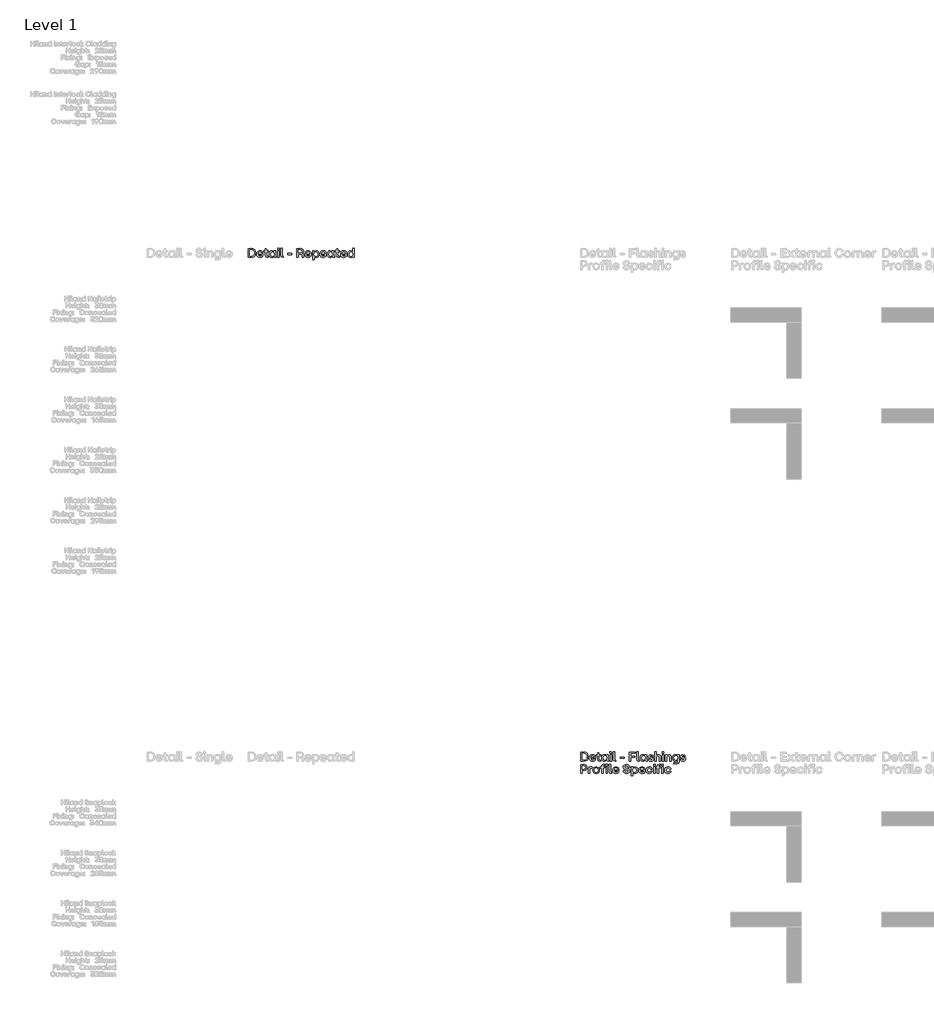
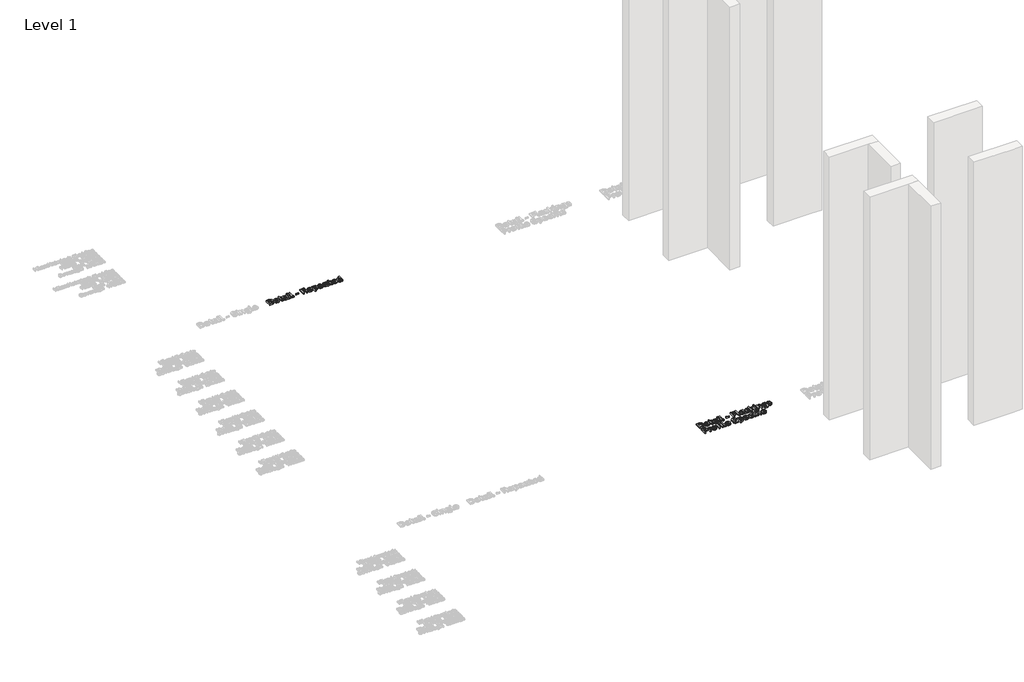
# One storey, part 33 of 64: 2 proxies.
"""IFC4 building model written with IfcOpenShell, lengths in millimetres."""

from ifc_helpers import new_model, si_unit, origin, origin_with_axes, place, context, project, spatial, polyline, outline, extrude, element, save

model = new_model("IFC4")

# Units and contexts
model_context = context("Model", 3, world=origin())
ifc_project = project(units=[si_unit("LENGTHUNIT", "METRE", prefix="MILLI")], contexts=[model_context])

# Site, building, storey
site = spatial("IfcSite", under=ifc_project)
building = spatial("IfcBuilding", under=site)
storey = spatial("IfcBuildingStorey", under=building, Name="Level 1", Elevation=0.0)

# Proxies
placement = place(None, origin())
element("IfcBuildingElementProxy", 1, Name="90mm", ObjectType="90mm", at=placement, inside=storey, context=model_context, shape_type="SweptSolid", body=[
    extrude(outline(polyline([(7610.2926176, -6500.0), (7608.9872124, -6498.7448027), (7608.9872124, -6411.3077612), (7642.5511873, -6410.002356), (7660.5475781, -6413.0054155), (7674.1193986, -6422.0145938), (7682.63905, -6436.3583606), (7685.4789338, -6455.3651852), (7682.648464, -6474.2025582), (7674.1570545, -6488.2890095), (7660.594648, -6497.0722524), (7642.5511873, -6500.0), (7610.2926176, -6500.0)]), holes=[polyline([(7623.7985402, -6487.3727155), (7641.6725492, -6487.3727155), (7653.8950326, -6485.311054), (7662.9481429, -6479.1260695), (7668.5494607, -6469.0625254), (7670.4165666, -6455.3651852), (7668.5431847, -6441.5109454), (7662.923039, -6431.1775339), (7653.8636527, -6424.7477859), (7641.6725492, -6422.6045366), (7623.7985402, -6422.6045366), (7623.7985402, -6487.3727155)])]), origin_with_axes(), (0.0, 0.0, 1.0), 20.0),
    extrude(outline(polyline([(7727.628458, -6500.7531184), (7714.0409476, -6498.4843493), (7703.5035666, -6491.6780421), (7696.7443293, -6481.0622112), (7694.4912502, -6467.3648711), (7696.7349153, -6453.5012173), (7703.4659107, -6442.7881086), (7713.9938777, -6435.9347315), (7727.628458, -6433.6502725), (7740.1584647, -6435.9033516), (7749.7324819, -6442.6625889), (7755.8044987, -6453.3129377), (7757.8285043, -6467.2393514), (7757.8285043, -6470.6785919), (7756.573307, -6472.009101), (7709.1268503, -6472.009101), (7714.6497183, -6484.6865934), (7727.628458, -6489.2053035), (7738.0465953, -6486.9082925), (7743.4439436, -6480.4691305), (7744.8246606, -6479.4147648), (7756.1967478, -6479.4147648), (7754.1633282, -6488.7314665), (7747.8120301, -6495.1925945), (7738.8248176, -6499.3629874), (7727.628458, -6500.7531184)]), holes=[polyline([(7709.2523701, -6461.5909637), (7743.8205028, -6461.5909637), (7739.0633051, -6449.6289337), (7727.628458, -6445.2733992), (7714.8631018, -6449.4155502), (7709.2523701, -6461.5909637)])]), origin_with_axes(), (0.0, 0.0, 1.0), 20.0),
    extrude(outline(polyline([(7796.6140998, -6500.0), (7782.731618, -6495.2302504), (7777.9618684, -6481.3477686), (7777.9618684, -6445.7754781), (7766.7906127, -6445.7754781), (7765.4852076, -6435.7339), (7766.7906127, -6434.4787027), (7777.9618684, -6434.4787027), (7777.9618684, -6416.45407), (7779.2170657, -6415.1486648), (7790.9657121, -6415.1486648), (7792.2209094, -6416.45407), (7792.2209094, -6434.4787027), (7808.0363949, -6434.4787027), (7809.3418001, -6435.7339), (7809.3418001, -6444.444969), (7792.2209094, -6445.7754781), (7792.2209094, -6488.7032246), (7808.0363949, -6488.7032246), (7809.3418001, -6489.9584219), (7809.3418001, -6498.7448027), (7808.0363949, -6500.0), (7796.6140998, -6500.0)])), origin_with_axes(), (0.0, 0.0, 1.0), 20.0),
    extrude(outline(polyline([(7847.2738615, -6500.7531184), (7835.3243835, -6498.4843493), (7826.0861316, -6491.6780421), (7820.1741525, -6481.0622112), (7818.2034928, -6467.3648711), (7820.1741525, -6453.5325972), (7826.0861316, -6442.8132125), (7835.3243835, -6435.9410075), (7847.2738615, -6433.6502725), (7859.1856835, -6436.5372262), (7868.160344, -6444.444969), (7868.7377347, -6435.7339), (7869.992932, -6434.4787027), (7881.6662665, -6434.4787027), (7882.9716717, -6435.7339), (7882.9716717, -6488.7032246), (7890.0760882, -6488.7032246), (7891.3312855, -6489.9584219), (7891.3312855, -6498.7448027), (7890.0760882, -6500.0), (7880.536589, -6500.0), (7872.1581473, -6497.6465051), (7869.3653333, -6490.5860205), (7859.7254183, -6497.8661646), (7847.2738615, -6500.7531184)]), holes=[polyline([(7832.7135732, -6467.3648711), (7837.6716024, -6483.3686362), (7843.5365116, -6487.7461367), (7851.2151809, -6489.2053035), (7858.7714684, -6487.7524127), (7864.470064, -6483.3937402), (7869.2398136, -6467.3648711), (7864.4324081, -6451.1728263), (7858.7243985, -6446.748256), (7851.2151809, -6445.2733992), (7843.5365116, -6446.748256), (7837.6716024, -6451.1728263), (7832.7135732, -6467.3648711)])]), origin_with_axes(), (0.0, 0.0, 1.0), 20.0),
    extrude(outline(polyline([(7903.6824266, -6500.0), (7902.3770214, -6498.7448027), (7902.3770214, -6435.7339), (7903.6824266, -6434.4787027), (7915.3557612, -6434.4787027), (7916.6109584, -6435.7339), (7916.6109584, -6498.7448027), (7915.3557612, -6500.0), (7903.6824266, -6500.0)])), origin_with_axes(), (0.0, 0.0, 1.0), 20.0),
    extrude(outline(polyline([(7901.3728636, -6421.8514182), (7901.3728636, -6407.9940404), (7902.6280609, -6406.6635313), (7916.4854387, -6406.6635313), (7917.8159478, -6421.8514182), (7916.4854387, -6423.1066155), (7902.6280609, -6423.1066155), (7901.3728636, -6421.8514182)])), origin_with_axes(), (0.0, 0.0, 1.0), 20.0),
    extrude(outline(polyline([(7951.5305464, -6500.0), (7937.6731686, -6495.2302504), (7932.903419, -6481.3477686), (7932.903419, -6408.7471587), (7945.8821587, -6407.4166496), (7947.137356, -6408.7471587), (7947.137356, -6488.7032246), (7959.1370418, -6488.7032246), (7960.3922391, -6489.9584219), (7960.3922391, -6498.7448027), (7959.1370418, -6500.0), (7951.5305464, -6500.0)])), origin_with_axes(), (0.0, 0.0, 1.0), 20.0),
    extrude(outline(polyline([(8005.1776775, -6472.887739), (8003.9224803, -6471.5572299), (8003.9224803, -6461.5909637), (8005.1776775, -6460.2604546), (8043.7875455, -6460.2604546), (8045.0427427, -6461.5909637), (8045.0427427, -6471.5572299), (8043.7875455, -6472.887739), (8005.1776775, -6472.887739)])), origin_with_axes(), (0.0, 0.0, 1.0), 20.0),
    extrude(outline(polyline([(8095.5016728, -6500.0), (8094.1962677, -6498.7448027), (8094.1962677, -6411.3077612), (8151.0567038, -6410.002356), (8152.3119011, -6411.3077612), (8152.3119011, -6421.3493393), (8151.0567038, -6422.6045366), (8109.0075954, -6422.6045366), (8109.0075954, -6449.7167975), (8148.4709975, -6449.7167975), (8149.7261947, -6451.0473066), (8149.7261947, -6461.0135729), (8148.4709975, -6462.344082), (8109.0075954, -6462.344082), (8109.0075954, -6498.7448027), (8107.6770863, -6500.0), (8095.5016728, -6500.0)])), origin_with_axes(), (0.0, 0.0, 1.0), 20.0),
    extrude(outline(polyline([(8184.495159, -6500.0), (8170.6377812, -6495.2302504), (8165.8680316, -6481.3477686), (8165.8680316, -6408.7471587), (8178.8467713, -6407.4166496), (8180.1019686, -6408.7471587), (8180.1019686, -6488.7032246), (8192.1016544, -6488.7032246), (8193.3568517, -6489.9584219), (8193.3568517, -6498.7448027), (8192.1016544, -6500.0), (8184.495159, -6500.0)])), origin_with_axes(), (0.0, 0.0, 1.0), 20.0),
    extrude(outline(polyline([(8229.6571566, -6500.7531184), (8217.7076787, -6498.4843493), (8208.4694268, -6491.6780421), (8202.5574477, -6481.0622112), (8200.586788, -6467.3648711), (8202.5574477, -6453.5325972), (8208.4694268, -6442.8132125), (8217.7076787, -6435.9410075), (8229.6571566, -6433.6502725), (8241.5689787, -6436.5372262), (8250.5436392, -6444.444969), (8251.1210299, -6435.7339), (8252.3762272, -6434.4787027), (8264.0495617, -6434.4787027), (8265.3549669, -6435.7339), (8265.3549669, -6488.7032246), (8272.4593834, -6488.7032246), (8273.7145807, -6489.9584219), (8273.7145807, -6498.7448027), (8272.4593834, -6500.0), (8262.9198842, -6500.0), (8254.5414425, -6497.6465051), (8251.7486285, -6490.5860205), (8242.1087135, -6497.8661646), (8229.6571566, -6500.7531184)]), holes=[polyline([(8215.0968684, -6467.3648711), (8220.0548976, -6483.3686362), (8225.9198068, -6487.7461367), (8233.5984761, -6489.2053035), (8241.1547636, -6487.7524127), (8246.8533592, -6483.3937402), (8251.6231088, -6467.3648711), (8246.8157033, -6451.1728263), (8241.1076937, -6446.748256), (8233.5984761, -6445.2733992), (8225.9198068, -6446.748256), (8220.0548976, -6451.1728263), (8215.0968684, -6467.3648711)])]), origin_with_axes(), (0.0, 0.0, 1.0), 20.0),
    extrude(outline(polyline([(8309.0358318, -6500.7531184), (8298.0936496, -6499.4257473), (8289.7183458, -6495.4436339), (8284.1609599, -6488.982506), (8281.6725314, -6480.2180911), (8282.8022089, -6478.7871662), (8294.1742961, -6478.7871662), (8295.4294934, -6479.9670516), (8299.7222681, -6487.4480273), (8309.0358318, -6489.7073824), (8317.0690943, -6487.5735471), (8320.0815677, -6481.8498475), (8317.9226284, -6476.7035387), (8310.6173803, -6474.0174166), (8301.4544403, -6472.3856601), (8287.5468546, -6466.009258), (8283.0532484, -6453.2313499), (8284.7006948, -6445.2137773), (8289.643034, -6438.9848609), (8297.3781872, -6434.9839196), (8307.4040753, -6433.6502725), (8324.8513173, -6438.6083017), (8330.0164541, -6444.6050066), (8332.4578128, -6452.6790631), (8319.956048, -6454.1099879), (8318.575331, -6452.9301025), (8315.0105708, -6446.6164603), (8307.4040753, -6444.6960084), (8299.747372, -6446.6792201), (8297.1114577, -6452.4280236), (8298.9942536, -6457.4111568), (8305.8476307, -6460.1349348), (8315.6381694, -6461.9675228), (8330.060386, -6468.2435092), (8334.1397771, -6481.0967292), (8332.5080206, -6489.4845849), (8327.6127513, -6495.6695694), (8319.7050085, -6499.4822311), (8309.0358318, -6500.7531184)])), origin_with_axes(), (0.0, 0.0, 1.0), 20.0),
    extrude(outline(polyline([(8348.7251693, -6500.0), (8347.4197642, -6498.7448027), (8347.4197642, -6408.7471587), (8360.3985039, -6407.4166496), (8361.6537012, -6408.7471587), (8361.6537012, -6443.9428901), (8370.8103652, -6436.2234269), (8382.2389363, -6433.6502725), (8392.1644087, -6435.5330684), (8399.4476909, -6441.1814561), (8403.9193311, -6450.4573639), (8405.4098779, -6463.2227201), (8405.4098779, -6498.7448027), (8404.0793688, -6500.0), (8392.4060342, -6500.0), (8391.100629, -6498.7448027), (8391.100629, -6463.2227201), (8387.5860767, -6449.942733), (8376.4775809, -6445.7754781), (8365.2686693, -6450.0054929), (8361.6537012, -6463.2227201), (8361.6537012, -6498.7448027), (8360.3985039, -6500.0), (8348.7251693, -6500.0)])), origin_with_axes(), (0.0, 0.0, 1.0), 20.0),
    extrude(outline(polyline([(8422.6311844, -6500.0), (8421.3257792, -6498.7448027), (8421.3257792, -6435.7339), (8422.6311844, -6434.4787027), (8434.3045189, -6434.4787027), (8435.5597162, -6435.7339), (8435.5597162, -6498.7448027), (8434.3045189, -6500.0), (8422.6311844, -6500.0)])), origin_with_axes(), (0.0, 0.0, 1.0), 20.0),
    extrude(outline(polyline([(8420.3216214, -6421.8514182), (8420.3216214, -6407.9940404), (8421.5768187, -6406.6635313), (8435.4341965, -6406.6635313), (8436.7647056, -6421.8514182), (8435.4341965, -6423.1066155), (8421.5768187, -6423.1066155), (8420.3216214, -6421.8514182)])), origin_with_axes(), (0.0, 0.0, 1.0), 20.0),
    extrude(outline(polyline([(8453.1575819, -6500.0), (8451.8521767, -6498.7448027), (8451.8521767, -6435.7339), (8453.1575819, -6434.4787027), (8464.2033178, -6434.4787027), (8465.4585151, -6435.7339), (8465.4585151, -6444.444969), (8474.7532508, -6436.3489466), (8486.6713489, -6433.6502725), (8496.5968213, -6435.5330684), (8503.8801034, -6441.1814561), (8508.3517437, -6450.4573639), (8509.8422904, -6463.2227201), (8509.8422904, -6498.7448027), (8508.5117813, -6500.0), (8496.8384467, -6500.0), (8495.5330416, -6498.7448027), (8495.5330416, -6463.2227201), (8492.0184892, -6449.942733), (8480.9099934, -6445.7754781), (8469.7010818, -6450.0054929), (8466.0861137, -6463.2227201), (8466.0861137, -6498.7448027), (8464.8309165, -6500.0), (8453.1575819, -6500.0)])), origin_with_axes(), (0.0, 0.0, 1.0), 20.0),
    extrude(outline(polyline([(8535.5487304, -6524.4010349), (8534.2182213, -6523.1458376), (8534.2182213, -6514.3594567), (8535.5487304, -6513.1042595), (8572.4515301, -6513.1042595), (8572.4515301, -6489.9584219), (8562.8994789, -6497.8661646), (8550.9876568, -6500.7531184), (8539.0381788, -6498.4686593), (8529.799927, -6491.6152823), (8523.8879478, -6480.9210016), (8521.9172881, -6467.1138316), (8523.8879478, -6453.3913875), (8529.799927, -6442.7504527), (8539.0381788, -6435.9253176), (8550.9876568, -6433.6502725), (8563.4392137, -6436.5372262), (8572.5770498, -6444.3194493), (8573.0791287, -6435.7339), (8574.334326, -6434.4787027), (8585.3800619, -6434.4787027), (8586.6854671, -6435.7339), (8586.6854671, -6506.4015061), (8582.0412372, -6519.7944609), (8568.6859383, -6524.4010349), (8535.5487304, -6524.4010349)]), holes=[polyline([(8536.4273685, -6467.1138316), (8541.3853977, -6483.3058764), (8547.250307, -6487.7304467), (8554.9289762, -6489.2053035), (8562.4381939, -6487.7304467), (8568.1462034, -6483.3058764), (8572.953609, -6467.1138316), (8568.1838594, -6451.0724106), (8562.4852638, -6446.723152), (8554.9289762, -6445.2733992), (8547.250307, -6446.732566), (8541.3853977, -6451.1100665), (8536.4273685, -6467.1138316)])]), origin_with_axes(), (0.0, 0.0, 1.0), 20.0),
    extrude(outline(polyline([(8627.1530269, -6500.7531184), (8616.2108448, -6499.4257473), (8607.835541, -6495.4436339), (8602.2781551, -6488.982506), (8599.7897265, -6480.2180911), (8600.9194041, -6478.7871662), (8612.2914913, -6478.7871662), (8613.5466886, -6479.9670516), (8617.8394632, -6487.4480273), (8627.1530269, -6489.7073824), (8635.1862894, -6487.5735471), (8638.1987629, -6481.8498475), (8636.0398236, -6476.7035387), (8628.7345755, -6474.0174166), (8619.5716354, -6472.3856601), (8605.6640497, -6466.009258), (8601.1704435, -6453.2313499), (8602.8178899, -6445.2137773), (8607.7602292, -6438.9848609), (8615.4953823, -6434.9839196), (8625.5212705, -6433.6502725), (8642.9685125, -6438.6083017), (8648.1336492, -6444.6050066), (8650.5750079, -6452.6790631), (8638.0732431, -6454.1099879), (8636.6925262, -6452.9301025), (8633.1277659, -6446.6164603), (8625.5212705, -6444.6960084), (8617.8645672, -6446.6792201), (8615.2286529, -6452.4280236), (8617.1114488, -6457.4111568), (8623.9648259, -6460.1349348), (8633.7553645, -6461.9675228), (8648.1775811, -6468.2435092), (8652.2569723, -6481.0967292), (8650.6252158, -6489.4845849), (8645.7299465, -6495.6695694), (8637.8222037, -6499.4822311), (8627.1530269, -6500.7531184)])), origin_with_axes(), (0.0, 0.0, 1.0), 20.0),
    extrude(outline(polyline([(7610.2926176, -6622.13305), (7608.9872124, -6620.8778528), (7608.9872124, -6533.4408112), (7640.1161046, -6532.135406), (7654.0174144, -6534.0338919), (7664.3414119, -6539.7293495), (7670.7429179, -6548.9236695), (7672.8767533, -6561.3187425), (7670.7429179, -6573.7138155), (7664.3414119, -6582.9081354), (7654.0174144, -6588.603593), (7640.1161046, -6590.5020789), (7623.7985402, -6590.5020789), (7623.7985402, -6620.8778528), (7622.4680311, -6622.13305), (7610.2926176, -6622.13305)]), holes=[polyline([(7623.7985402, -6577.8747944), (7640.1161046, -6577.8747944), (7653.5969233, -6573.7954033), (7657.9901137, -6561.3061905), (7653.5969233, -6548.8169777), (7640.1161046, -6544.7375866), (7623.7985402, -6544.7375866), (7623.7985402, -6577.8747944)])]), origin_with_axes(), (0.0, 0.0, 1.0), 20.0),
    extrude(outline(polyline([(7686.1065325, -6622.13305), (7684.8513352, -6620.8778528), (7684.8513352, -6575.1886723), (7689.6210848, -6561.3438464), (7703.4784626, -6556.6117527), (7721.7541348, -6556.6117527), (7723.0093321, -6557.86695), (7723.0093321, -6567.4064492), (7721.7541348, -6568.6616465), (7699.0852722, -6568.6616465), (7699.0852722, -6620.8778528), (7697.8300749, -6622.13305), (7686.1065325, -6622.13305)])), origin_with_axes(), (0.0, 0.0, 1.0), 20.0),
    extrude(outline(polyline([(7764.2049064, -6622.8861684), (7750.9782652, -6620.5797434), (7740.519334, -6613.6604685), (7733.7130268, -6603.0069817), (7731.4442577, -6589.4979211), (7733.7193028, -6575.9009967), (7740.5444379, -6565.1345422), (7751.0096451, -6558.1211274), (7764.2049064, -6555.7833225), (7777.5570673, -6558.1211274), (7788.0913103, -6565.1345422), (7794.9352734, -6575.9009967), (7797.2165945, -6589.4979211), (7794.9352734, -6603.0069817), (7788.0913103, -6613.6604685), (7777.5570673, -6620.5797434), (7764.2049064, -6622.8861684)]), holes=[polyline([(7745.9543381, -6589.4979211), (7750.8119515, -6605.5267902), (7756.588997, -6609.8854627), (7764.2049064, -6611.3383535), (7771.9024036, -6609.8791867), (7777.7735888, -6605.5016862), (7782.731618, -6589.4979211), (7777.7986928, -6573.3058764), (7771.9337835, -6568.881306), (7764.2049064, -6567.4064492), (7756.588997, -6568.881306), (7750.8119515, -6573.3058764), (7745.9543381, -6589.4979211)])]), origin_with_axes(), (0.0, 0.0, 1.0), 20.0),
    extrude(outline(polyline([(7819.3833782, -6622.13305), (7818.1281809, -6620.8778528), (7818.1281809, -6567.9085281), (7806.9569253, -6567.9085281), (7805.6515201, -6557.86695), (7806.9569253, -6556.6117527), (7818.1281809, -6556.6117527), (7818.1281809, -6548.201931), (7822.8979305, -6534.3194493), (7836.7804123, -6529.5496997), (7848.2027074, -6529.5496997), (7849.5081126, -6539.5912778), (7832.3872219, -6540.9217869), (7832.3872219, -6556.6117527), (7848.2027074, -6556.6117527), (7849.5081126, -6557.86695), (7849.5081126, -6566.578019), (7832.3872219, -6567.9085281), (7832.3872219, -6620.8778528), (7831.1320246, -6622.13305), (7819.3833782, -6622.13305)])), origin_with_axes(), (0.0, 0.0, 1.0), 20.0),
    extrude(outline(polyline([(7861.3069669, -6543.9844682), (7861.3069669, -6530.1270904), (7862.5621642, -6528.7965813), (7876.4948538, -6528.7965813), (7877.7500511, -6530.1270904), (7877.7500511, -6543.9844682), (7876.4948538, -6545.2396655), (7862.5621642, -6545.2396655), (7861.3069669, -6543.9844682)])), origin_with_axes(), (0.0, 0.0, 1.0), 20.0),
    extrude(outline(polyline([(7862.3111247, -6620.8778528), (7862.3111247, -6557.86695), (7863.6416338, -6556.6117527), (7875.3149684, -6556.6117527), (7876.6203735, -6557.86695), (7876.6203735, -6620.8778528), (7875.3149684, -6622.13305), (7863.6416338, -6622.13305), (7862.3111247, -6620.8778528)])), origin_with_axes(), (0.0, 0.0, 1.0), 20.0),
    extrude(outline(polyline([(7911.3642339, -6622.13305), (7897.506856, -6617.3633004), (7892.7371064, -6603.4808186), (7892.7371064, -6530.8802088), (7905.7158462, -6529.5496997), (7906.9710434, -6530.8802088), (7906.9710434, -6610.8362746), (7918.9707293, -6610.8362746), (7920.2259266, -6612.0914719), (7920.2259266, -6620.8778528), (7918.9707293, -6622.13305), (7911.3642339, -6622.13305)])), origin_with_axes(), (0.0, 0.0, 1.0), 20.0),
    extrude(outline(polyline([(7960.5930707, -6622.8861684), (7947.0055602, -6620.6173993), (7936.4681792, -6613.8110921), (7929.7089419, -6603.1952613), (7927.4558628, -6589.4979211), (7929.6995279, -6575.6342673), (7936.4305233, -6564.9211586), (7946.9584903, -6558.0677815), (7960.5930707, -6555.7833225), (7973.1230774, -6558.0364016), (7982.6970945, -6564.7956389), (7988.7691113, -6575.4459877), (7990.7931169, -6589.3724014), (7990.7931169, -6592.8116419), (7989.5379196, -6594.142151), (7942.0914629, -6594.142151), (7947.6143309, -6606.8196434), (7960.5930707, -6611.3383535), (7971.011208, -6609.0413425), (7976.4085562, -6602.6021806), (7977.7892732, -6601.5478148), (7989.1613604, -6601.5478148), (7987.1279409, -6610.8645166), (7980.7766427, -6617.3256445), (7971.7894303, -6621.4960374), (7960.5930707, -6622.8861684)]), holes=[polyline([(7942.2169827, -6583.7240137), (7976.7851154, -6583.7240137), (7972.0279177, -6571.7619837), (7960.5930707, -6567.4064492), (7947.8277145, -6571.5486002), (7942.2169827, -6583.7240137)])]), origin_with_axes(), (0.0, 0.0, 1.0), 20.0),
    extrude(outline(polyline([(8066.8831752, -6622.8861684), (8053.1136611, -6621.0347524), (8042.4319324, -6615.4805045), (8035.1706162, -6606.5058441), (8031.6623399, -6594.3931904), (8044.917223, -6592.9371616), (8046.2226282, -6594.142151), (8052.4107507, -6606.6941236), (8066.8831752, -6610.5852352), (8079.3974919, -6607.007923), (8083.8785461, -6597.0793126), (8080.7782089, -6588.8326665), (8070.3977275, -6584.7281715), (8058.5235614, -6582.644544), (8047.5186193, -6579.3904451), (8039.6579465, -6574.0715467), (8034.9415427, -6566.6878488), (8033.3694082, -6557.2393514), (8035.3839998, -6546.397585), (8041.4277746, -6538.2231128), (8051.0802416, -6533.0924939), (8063.9209096, -6531.3822877), (8076.6548859, -6533.1144599), (8086.5897722, -6538.3109766), (8093.3803895, -6546.6643144), (8096.6815583, -6557.86695), (8083.501987, -6559.2978749), (8082.0710621, -6557.86695), (8076.2594987, -6547.1601173), (8063.9209096, -6543.7334288), (8052.1597112, -6546.8714219), (8048.1054241, -6556.034362), (8051.7203922, -6564.732879), (8063.0422715, -6569.2892451), (8074.8411258, -6571.3477686), (8085.6609263, -6574.5171417), (8093.0163822, -6579.6069666), (8097.2338451, -6586.9373187), (8098.639666, -6596.8282731), (8096.5277966, -6607.7422134), (8090.1921884, -6615.9825834), (8080.1411963, -6621.1602721), (8066.8831752, -6622.8861684)])), origin_with_axes(), (0.0, 0.0, 1.0), 20.0),
    extrude(outline(polyline([(8114.1539042, -6646.5340849), (8112.848499, -6645.2788876), (8112.848499, -6557.86695), (8114.1539042, -6556.6117527), (8125.1996401, -6556.6117527), (8126.4548374, -6557.86695), (8126.4548374, -6566.4524993), (8136.0947524, -6558.6702762), (8148.5463093, -6555.7833225), (8160.4957873, -6558.0583676), (8169.7340392, -6564.8835027), (8175.6460183, -6575.5244375), (8177.616678, -6589.2468816), (8175.6460183, -6603.0540516), (8169.7340392, -6613.7483323), (8160.4957873, -6620.6017094), (8148.5463093, -6622.8861684), (8136.6344872, -6619.9992147), (8127.6598268, -6612.0914719), (8127.082436, -6645.2788876), (8125.8272388, -6646.5340849), (8114.1539042, -6646.5340849)]), holes=[polyline([(8126.5803571, -6589.2468816), (8131.3877627, -6605.4389264), (8137.0957722, -6609.8634967), (8144.6049899, -6611.3383535), (8152.2836592, -6609.8634967), (8158.1485684, -6605.4389264), (8163.1065976, -6589.2468816), (8158.1485684, -6573.2431165), (8152.2836592, -6568.865616), (8144.6049899, -6567.4064492), (8137.0487023, -6568.856202), (8131.3501068, -6573.2054606), (8126.5803571, -6589.2468816)])]), origin_with_axes(), (0.0, 0.0, 1.0), 20.0),
    extrude(outline(polyline([(8219.2641233, -6622.8861684), (8205.6766129, -6620.6173993), (8195.1392318, -6613.8110921), (8188.3799945, -6603.1952613), (8186.1269155, -6589.4979211), (8188.3705806, -6575.6342673), (8195.1015759, -6564.9211586), (8205.629543, -6558.0677815), (8219.2641233, -6555.7833225), (8231.79413, -6558.0364016), (8241.3681471, -6564.7956389), (8247.4401639, -6575.4459877), (8249.4641695, -6589.3724014), (8249.4641695, -6592.8116419), (8248.2089722, -6594.142151), (8200.7625156, -6594.142151), (8206.2853836, -6606.8196434), (8219.2641233, -6611.3383535), (8229.6822606, -6609.0413425), (8235.0796088, -6602.6021806), (8236.4603258, -6601.5478148), (8247.8324131, -6601.5478148), (8245.7989935, -6610.8645166), (8239.4476953, -6617.3256445), (8230.4604829, -6621.4960374), (8219.2641233, -6622.8861684)]), holes=[polyline([(8200.8880353, -6583.7240137), (8235.456168, -6583.7240137), (8230.6989704, -6571.7619837), (8219.2641233, -6567.4064492), (8206.4987671, -6571.5486002), (8200.8880353, -6583.7240137)])]), origin_with_axes(), (0.0, 0.0, 1.0), 20.0),
    extrude(outline(polyline([(8291.4379661, -6622.8861684), (8277.9445955, -6620.6173993), (8267.4385944, -6613.8110921), (8260.6793571, -6603.1952613), (8258.426278, -6589.4979211), (8260.710737, -6575.9009967), (8267.5641141, -6565.1345422), (8278.1014951, -6558.1211274), (8291.4379661, -6555.7833225), (8302.4209422, -6557.3303532), (8311.3704987, -6561.971445), (8317.6841409, -6569.1543114), (8320.7593742, -6578.3266654), (8308.1320897, -6579.7073824), (8301.7054797, -6570.1678832), (8291.4379661, -6567.4064492), (8283.680847, -6568.881306), (8277.8316277, -6573.3058764), (8272.9363584, -6589.4979211), (8277.8567317, -6605.5644461), (8283.7122269, -6609.8948767), (8291.4379661, -6611.3383535), (8302.019279, -6608.7024393), (8307.3789714, -6600.1670979), (8308.7596884, -6598.9621085), (8320.1317756, -6598.9621085), (8318.12346, -6609.4712476), (8311.7470579, -6616.6980459), (8302.7033616, -6621.3391377), (8291.4379661, -6622.8861684)])), origin_with_axes(), (0.0, 0.0, 1.0), 20.0),
    extrude(outline(polyline([(8335.8719493, -6622.13305), (8334.5665442, -6620.8778528), (8334.5665442, -6557.86695), (8335.8719493, -6556.6117527), (8347.5452839, -6556.6117527), (8348.8004812, -6557.86695), (8348.8004812, -6620.8778528), (8347.5452839, -6622.13305), (8335.8719493, -6622.13305)])), origin_with_axes(), (0.0, 0.0, 1.0), 20.0),
    extrude(outline(polyline([(8333.5623863, -6543.9844682), (8333.5623863, -6530.1270904), (8334.8175836, -6528.7965813), (8348.6749614, -6528.7965813), (8350.0054705, -6543.9844682), (8348.6749614, -6545.2396655), (8334.8175836, -6545.2396655), (8333.5623863, -6543.9844682)])), origin_with_axes(), (0.0, 0.0, 1.0), 20.0),
    extrude(outline(polyline([(8373.678491, -6622.13305), (8372.4232937, -6620.8778528), (8372.4232937, -6567.9085281), (8361.252038, -6567.9085281), (8359.9466329, -6557.86695), (8361.252038, -6556.6117527), (8372.4232937, -6556.6117527), (8372.4232937, -6548.201931), (8377.1930433, -6534.3194493), (8391.0755251, -6529.5496997), (8402.4978202, -6529.5496997), (8403.8032254, -6539.5912778), (8386.6823347, -6540.9217869), (8386.6823347, -6556.6117527), (8402.4978202, -6556.6117527), (8403.8032254, -6557.86695), (8403.8032254, -6566.578019), (8386.6823347, -6567.9085281), (8386.6823347, -6620.8778528), (8385.4271374, -6622.13305), (8373.678491, -6622.13305)])), origin_with_axes(), (0.0, 0.0, 1.0), 20.0),
    extrude(outline(polyline([(8415.6020797, -6543.9844682), (8415.6020797, -6530.1270904), (8416.8572769, -6528.7965813), (8430.7899666, -6528.7965813), (8432.0451639, -6530.1270904), (8432.0451639, -6543.9844682), (8430.7899666, -6545.2396655), (8416.8572769, -6545.2396655), (8415.6020797, -6543.9844682)])), origin_with_axes(), (0.0, 0.0, 1.0), 20.0),
    extrude(outline(polyline([(8416.6062375, -6620.8778528), (8416.6062375, -6557.86695), (8417.9367466, -6556.6117527), (8429.6100812, -6556.6117527), (8430.9154863, -6557.86695), (8430.9154863, -6620.8778528), (8429.6100812, -6622.13305), (8417.9367466, -6622.13305), (8416.6062375, -6620.8778528)])), origin_with_axes(), (0.0, 0.0, 1.0), 20.0),
    extrude(outline(polyline([(8476.2030037, -6622.8861684), (8462.7096331, -6620.6173993), (8452.203632, -6613.8110921), (8445.4443947, -6603.1952613), (8443.1913156, -6589.4979211), (8445.4757746, -6575.9009967), (8452.3291517, -6565.1345422), (8462.8665327, -6558.1211274), (8476.2030037, -6555.7833225), (8487.1859798, -6557.3303532), (8496.1355363, -6561.971445), (8502.4491785, -6569.1543114), (8505.5244118, -6578.3266654), (8492.8971273, -6579.7073824), (8486.4705173, -6570.1678832), (8476.2030037, -6567.4064492), (8468.4458846, -6568.881306), (8462.5966653, -6573.3058764), (8457.701396, -6589.4979211), (8462.6217693, -6605.5644461), (8468.4772645, -6609.8948767), (8476.2030037, -6611.3383535), (8486.7843166, -6608.7024393), (8492.144009, -6600.1670979), (8493.524726, -6598.9621085), (8504.8968132, -6598.9621085), (8502.8884976, -6609.4712476), (8496.5120955, -6616.6980459), (8487.4683992, -6621.3391377), (8476.2030037, -6622.8861684)])), origin_with_axes(), (0.0, 0.0, 1.0), 20.0),
])
element("IfcBuildingElementProxy", 2, Name="90mm", ObjectType="90mm", at=placement, inside=storey, context=model_context, shape_type="SweptSolid", body=[
    extrude(outline(polyline([(4310.2926176, -1500.0), (4308.9872124, -1498.7448027), (4308.9872124, -1411.3077612), (4342.5511873, -1410.002356), (4360.5475781, -1413.0054155), (4374.1193986, -1422.0145938), (4382.63905, -1436.3583606), (4385.4789338, -1455.3651852), (4382.648464, -1474.2025582), (4374.1570545, -1488.2890095), (4360.594648, -1497.0722524), (4342.5511873, -1500.0), (4310.2926176, -1500.0)]), holes=[polyline([(4323.7985402, -1487.3727155), (4341.6725492, -1487.3727155), (4353.8950326, -1485.311054), (4362.9481429, -1479.1260695), (4368.5494607, -1469.0625254), (4370.4165666, -1455.3651852), (4368.5431847, -1441.5109454), (4362.923039, -1431.1775339), (4353.8636527, -1424.7477859), (4341.6725492, -1422.6045366), (4323.7985402, -1422.6045366), (4323.7985402, -1487.3727155)])]), origin_with_axes(), (0.0, 0.0, 1.0), 20.0),
    extrude(outline(polyline([(4427.628458, -1500.7531184), (4414.0409476, -1498.4843493), (4403.5035666, -1491.6780421), (4396.7443293, -1481.0622112), (4394.4912502, -1467.3648711), (4396.7349153, -1453.5012173), (4403.4659107, -1442.7881086), (4413.9938777, -1435.9347315), (4427.628458, -1433.6502725), (4440.1584647, -1435.9033516), (4449.7324819, -1442.6625889), (4455.8044987, -1453.3129377), (4457.8285043, -1467.2393514), (4457.8285043, -1470.6785919), (4456.573307, -1472.009101), (4409.1268503, -1472.009101), (4414.6497183, -1484.6865934), (4427.628458, -1489.2053035), (4438.0465953, -1486.9082925), (4443.4439436, -1480.4691305), (4444.8246606, -1479.4147648), (4456.1967478, -1479.4147648), (4454.1633282, -1488.7314665), (4447.8120301, -1495.1925945), (4438.8248176, -1499.3629874), (4427.628458, -1500.7531184)]), holes=[polyline([(4409.2523701, -1461.5909637), (4443.8205028, -1461.5909637), (4439.0633051, -1449.6289337), (4427.628458, -1445.2733992), (4414.8631018, -1449.4155502), (4409.2523701, -1461.5909637)])]), origin_with_axes(), (0.0, 0.0, 1.0), 20.0),
    extrude(outline(polyline([(4496.6140998, -1500.0), (4482.731618, -1495.2302504), (4477.9618684, -1481.3477686), (4477.9618684, -1445.7754781), (4466.7906127, -1445.7754781), (4465.4852076, -1435.7339), (4466.7906127, -1434.4787027), (4477.9618684, -1434.4787027), (4477.9618684, -1416.45407), (4479.2170657, -1415.1486648), (4490.9657121, -1415.1486648), (4492.2209094, -1416.45407), (4492.2209094, -1434.4787027), (4508.0363949, -1434.4787027), (4509.3418001, -1435.7339), (4509.3418001, -1444.444969), (4492.2209094, -1445.7754781), (4492.2209094, -1488.7032246), (4508.0363949, -1488.7032246), (4509.3418001, -1489.9584219), (4509.3418001, -1498.7448027), (4508.0363949, -1500.0), (4496.6140998, -1500.0)])), origin_with_axes(), (0.0, 0.0, 1.0), 20.0),
    extrude(outline(polyline([(4547.2738615, -1500.7531184), (4535.3243835, -1498.4843493), (4526.0861316, -1491.6780421), (4520.1741525, -1481.0622112), (4518.2034928, -1467.3648711), (4520.1741525, -1453.5325972), (4526.0861316, -1442.8132125), (4535.3243835, -1435.9410075), (4547.2738615, -1433.6502725), (4559.1856835, -1436.5372262), (4568.160344, -1444.444969), (4568.7377347, -1435.7339), (4569.992932, -1434.4787027), (4581.6662665, -1434.4787027), (4582.9716717, -1435.7339), (4582.9716717, -1488.7032246), (4590.0760882, -1488.7032246), (4591.3312855, -1489.9584219), (4591.3312855, -1498.7448027), (4590.0760882, -1500.0), (4580.536589, -1500.0), (4572.1581473, -1497.6465051), (4569.3653333, -1490.5860205), (4559.7254183, -1497.8661646), (4547.2738615, -1500.7531184)]), holes=[polyline([(4532.7135732, -1467.3648711), (4537.6716024, -1483.3686362), (4543.5365116, -1487.7461367), (4551.2151809, -1489.2053035), (4558.7714684, -1487.7524127), (4564.470064, -1483.3937402), (4569.2398136, -1467.3648711), (4564.4324081, -1451.1728263), (4558.7243985, -1446.748256), (4551.2151809, -1445.2733992), (4543.5365116, -1446.748256), (4537.6716024, -1451.1728263), (4532.7135732, -1467.3648711)])]), origin_with_axes(), (0.0, 0.0, 1.0), 20.0),
    extrude(outline(polyline([(4603.6824266, -1500.0), (4602.3770214, -1498.7448027), (4602.3770214, -1435.7339), (4603.6824266, -1434.4787027), (4615.3557612, -1434.4787027), (4616.6109584, -1435.7339), (4616.6109584, -1498.7448027), (4615.3557612, -1500.0), (4603.6824266, -1500.0)])), origin_with_axes(), (0.0, 0.0, 1.0), 20.0),
    extrude(outline(polyline([(4601.3728636, -1421.8514182), (4601.3728636, -1407.9940404), (4602.6280609, -1406.6635313), (4616.4854387, -1406.6635313), (4617.8159478, -1421.8514182), (4616.4854387, -1423.1066155), (4602.6280609, -1423.1066155), (4601.3728636, -1421.8514182)])), origin_with_axes(), (0.0, 0.0, 1.0), 20.0),
    extrude(outline(polyline([(4651.5305464, -1500.0), (4637.6731686, -1495.2302504), (4632.903419, -1481.3477686), (4632.903419, -1408.7471587), (4645.8821587, -1407.4166496), (4647.137356, -1408.7471587), (4647.137356, -1488.7032246), (4659.1370418, -1488.7032246), (4660.3922391, -1489.9584219), (4660.3922391, -1498.7448027), (4659.1370418, -1500.0), (4651.5305464, -1500.0)])), origin_with_axes(), (0.0, 0.0, 1.0), 20.0),
    extrude(outline(polyline([(4705.1776775, -1472.887739), (4703.9224803, -1471.5572299), (4703.9224803, -1461.5909637), (4705.1776775, -1460.2604546), (4743.7875455, -1460.2604546), (4745.0427427, -1461.5909637), (4745.0427427, -1471.5572299), (4743.7875455, -1472.887739), (4705.1776775, -1472.887739)])), origin_with_axes(), (0.0, 0.0, 1.0), 20.0),
    extrude(outline(polyline([(4795.5016728, -1500.0), (4794.1962677, -1498.7448027), (4794.1962677, -1411.3077612), (4828.011282, -1410.002356), (4841.802762, -1411.7439422), (4851.7972702, -1416.9687008), (4857.869287, -1425.5636641), (4859.8932926, -1437.4158643), (4856.9184751, -1451.1602744), (4848.219958, -1459.6328559), (4857.4833138, -1462.4570498), (4859.8932926, -1470.176513), (4859.8932926, -1498.7448027), (4858.5878874, -1500.0), (4846.4124739, -1500.0), (4845.0819648, -1498.7448027), (4845.0819648, -1467.3648711), (4809.0075954, -1467.3648711), (4809.0075954, -1498.7448027), (4807.6770863, -1500.0), (4795.5016728, -1500.0)]), holes=[polyline([(4809.0075954, -1454.7375866), (4828.011282, -1454.7375866), (4840.7891902, -1450.7837152), (4844.9564451, -1438.6710616), (4840.7891902, -1426.558408), (4828.011282, -1422.6045366), (4809.0075954, -1422.6045366), (4809.0075954, -1454.7375866)])]), origin_with_axes(), (0.0, 0.0, 1.0), 20.0),
    extrude(outline(polyline([(4906.4109033, -1500.7531184), (4892.8233929, -1498.4843493), (4882.2860118, -1491.6780421), (4875.5267745, -1481.0622112), (4873.2736954, -1467.3648711), (4875.5173606, -1453.5012173), (4882.2483559, -1442.7881086), (4892.776323, -1435.9347315), (4906.4109033, -1433.6502725), (4918.94091, -1435.9033516), (4928.5149271, -1442.6625889), (4934.5869439, -1453.3129377), (4936.6109495, -1467.2393514), (4936.6109495, -1470.6785919), (4935.3557522, -1472.009101), (4887.9092956, -1472.009101), (4893.4321635, -1484.6865934), (4906.4109033, -1489.2053035), (4916.8290406, -1486.9082925), (4922.2263888, -1480.4691305), (4923.6071058, -1479.4147648), (4934.9791931, -1479.4147648), (4932.9457735, -1488.7314665), (4926.5944753, -1495.1925945), (4917.6072629, -1499.3629874), (4906.4109033, -1500.7531184)]), holes=[polyline([(4888.0348153, -1461.5909637), (4922.602948, -1461.5909637), (4917.8457504, -1449.6289337), (4906.4109033, -1445.2733992), (4893.6455471, -1449.4155502), (4888.0348153, -1461.5909637)])]), origin_with_axes(), (0.0, 0.0, 1.0), 20.0),
    extrude(outline(polyline([(4950.7193668, -1524.4010349), (4949.4139616, -1523.1458376), (4949.4139616, -1435.7339), (4950.7193668, -1434.4787027), (4961.7651027, -1434.4787027), (4963.0203, -1435.7339), (4963.0203, -1444.3194493), (4972.660215, -1436.5372262), (4985.1117719, -1433.6502725), (4997.0612498, -1435.9253176), (5006.2995017, -1442.7504527), (5012.2114809, -1453.3913875), (5014.1821406, -1467.1138316), (5012.2114809, -1480.9210016), (5006.2995017, -1491.6152823), (4997.0612498, -1498.4686593), (4985.1117719, -1500.7531184), (4973.1999498, -1497.8661646), (4964.2252894, -1489.9584219), (4963.6478986, -1523.1458376), (4962.3927014, -1524.4010349), (4950.7193668, -1524.4010349)]), holes=[polyline([(4963.1458197, -1467.1138316), (4967.9532252, -1483.3058764), (4973.6612348, -1487.7304467), (4981.1704525, -1489.2053035), (4988.8491217, -1487.7304467), (4994.714031, -1483.3058764), (4999.6720602, -1467.1138316), (4994.714031, -1451.1100665), (4988.8491217, -1446.732566), (4981.1704525, -1445.2733992), (4973.6141649, -1446.723152), (4967.9155693, -1451.0724106), (4963.1458197, -1467.1138316)])]), origin_with_axes(), (0.0, 0.0, 1.0), 20.0),
    extrude(outline(polyline([(5055.8295859, -1500.7531184), (5042.2420754, -1498.4843493), (5031.7046944, -1491.6780421), (5024.9454571, -1481.0622112), (5022.692378, -1467.3648711), (5024.9360431, -1453.5012173), (5031.6670385, -1442.7881086), (5042.1950055, -1435.9347315), (5055.8295859, -1433.6502725), (5068.3595926, -1435.9033516), (5077.9336097, -1442.6625889), (5084.0056265, -1453.3129377), (5086.0296321, -1467.2393514), (5086.0296321, -1470.6785919), (5084.7744348, -1472.009101), (5037.3279781, -1472.009101), (5042.8508461, -1484.6865934), (5055.8295859, -1489.2053035), (5066.2477232, -1486.9082925), (5071.6450714, -1480.4691305), (5073.0257884, -1479.4147648), (5084.3978756, -1479.4147648), (5082.3644561, -1488.7314665), (5076.0131579, -1495.1925945), (5067.0259455, -1499.3629874), (5055.8295859, -1500.7531184)]), holes=[polyline([(5037.4534979, -1461.5909637), (5072.0216306, -1461.5909637), (5067.2644329, -1449.6289337), (5055.8295859, -1445.2733992), (5043.0642297, -1449.4155502), (5037.4534979, -1461.5909637)])]), origin_with_axes(), (0.0, 0.0, 1.0), 20.0),
    extrude(outline(polyline([(5124.0621092, -1500.7531184), (5112.1126313, -1498.4843493), (5102.8743794, -1491.6780421), (5096.9624003, -1481.0622112), (5094.9917406, -1467.3648711), (5096.9624003, -1453.5325972), (5102.8743794, -1442.8132125), (5112.1126313, -1435.9410075), (5124.0621092, -1433.6502725), (5135.9739313, -1436.5372262), (5144.9485918, -1444.444969), (5145.5259825, -1435.7339), (5146.7811798, -1434.4787027), (5158.4545143, -1434.4787027), (5159.7599195, -1435.7339), (5159.7599195, -1488.7032246), (5166.864336, -1488.7032246), (5168.1195333, -1489.9584219), (5168.1195333, -1498.7448027), (5166.864336, -1500.0), (5157.3248368, -1500.0), (5148.9463951, -1497.6465051), (5146.1535811, -1490.5860205), (5136.5136661, -1497.8661646), (5124.0621092, -1500.7531184)]), holes=[polyline([(5109.501821, -1467.3648711), (5114.4598502, -1483.3686362), (5120.3247594, -1487.7461367), (5128.0034287, -1489.2053035), (5135.5597162, -1487.7524127), (5141.2583118, -1483.3937402), (5146.0280614, -1467.3648711), (5141.2206559, -1451.1728263), (5135.5126463, -1446.748256), (5128.0034287, -1445.2733992), (5120.3247594, -1446.748256), (5114.4598502, -1451.1728263), (5109.501821, -1467.3648711)])]), origin_with_axes(), (0.0, 0.0, 1.0), 20.0),
    extrude(outline(polyline([(5205.1478526, -1500.0), (5191.2653709, -1495.2302504), (5186.4956213, -1481.3477686), (5186.4956213, -1445.7754781), (5175.3243656, -1445.7754781), (5174.0189604, -1435.7339), (5175.3243656, -1434.4787027), (5186.4956213, -1434.4787027), (5186.4956213, -1416.45407), (5187.7508185, -1415.1486648), (5199.4994649, -1415.1486648), (5200.7546622, -1416.45407), (5200.7546622, -1434.4787027), (5216.5701478, -1434.4787027), (5217.8755529, -1435.7339), (5217.8755529, -1444.444969), (5200.7546622, -1445.7754781), (5200.7546622, -1488.7032246), (5216.5701478, -1488.7032246), (5217.8755529, -1489.9584219), (5217.8755529, -1498.7448027), (5216.5701478, -1500.0), (5205.1478526, -1500.0)])), origin_with_axes(), (0.0, 0.0, 1.0), 20.0),
    extrude(outline(polyline([(5259.8744535, -1500.7531184), (5246.286943, -1498.4843493), (5235.749562, -1491.6780421), (5228.9903247, -1481.0622112), (5226.7372456, -1467.3648711), (5228.9809107, -1453.5012173), (5235.7119061, -1442.7881086), (5246.2398732, -1435.9347315), (5259.8744535, -1433.6502725), (5272.4044602, -1435.9033516), (5281.9784773, -1442.6625889), (5288.0504941, -1453.3129377), (5290.0744997, -1467.2393514), (5290.0744997, -1470.6785919), (5288.8193024, -1472.009101), (5241.3728458, -1472.009101), (5246.8957137, -1484.6865934), (5259.8744535, -1489.2053035), (5270.2925908, -1486.9082925), (5275.689939, -1480.4691305), (5277.070656, -1479.4147648), (5288.4427432, -1479.4147648), (5286.4093237, -1488.7314665), (5280.0580255, -1495.1925945), (5271.0708131, -1499.3629874), (5259.8744535, -1500.7531184)]), holes=[polyline([(5241.4983655, -1461.5909637), (5276.0664982, -1461.5909637), (5271.3093006, -1449.6289337), (5259.8744535, -1445.2733992), (5247.1090973, -1449.4155502), (5241.4983655, -1461.5909637)])]), origin_with_axes(), (0.0, 0.0, 1.0), 20.0),
    extrude(outline(polyline([(5328.1069769, -1500.7531184), (5316.1574989, -1498.4843493), (5306.919247, -1491.6780421), (5301.0072679, -1481.0622112), (5299.0366082, -1467.3648711), (5301.0072679, -1453.5325972), (5306.919247, -1442.8132125), (5316.1574989, -1435.9410075), (5328.1069769, -1433.6502725), (5340.0187989, -1436.5372262), (5348.9934594, -1444.444969), (5349.5708501, -1408.7471587), (5350.8260474, -1407.4166496), (5362.4993819, -1407.4166496), (5363.8047871, -1498.7448027), (5362.4993819, -1500.0), (5351.453646, -1500.0), (5350.1984487, -1498.7448027), (5350.1984487, -1490.0839416), (5340.5585337, -1497.8661646), (5328.1069769, -1500.7531184)]), holes=[polyline([(5313.5466886, -1467.3648711), (5318.5047178, -1483.3686362), (5324.369627, -1487.7461367), (5332.0482963, -1489.2053035), (5339.6045838, -1487.7524127), (5345.3031794, -1483.3937402), (5350.072929, -1467.3648711), (5345.2655235, -1451.1728263), (5339.5575139, -1446.748256), (5332.0482963, -1445.2733992), (5324.369627, -1446.748256), (5318.5047178, -1451.1728263), (5313.5466886, -1467.3648711)])]), origin_with_axes(), (0.0, 0.0, 1.0), 20.0),
])

save(model, "model.ifc")
